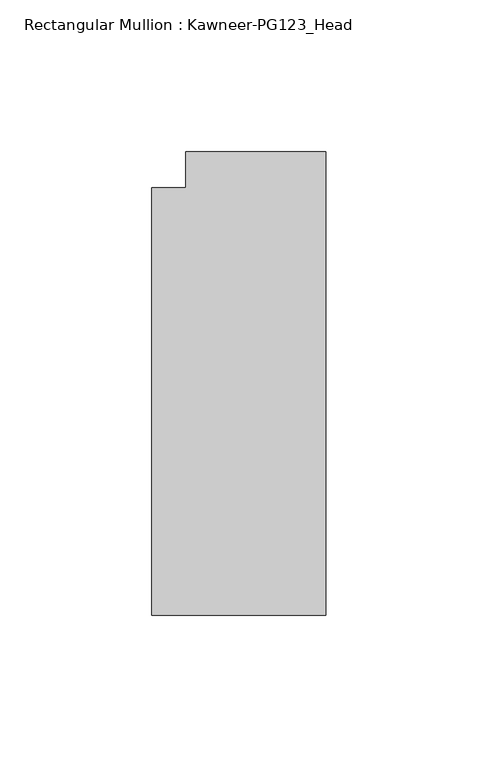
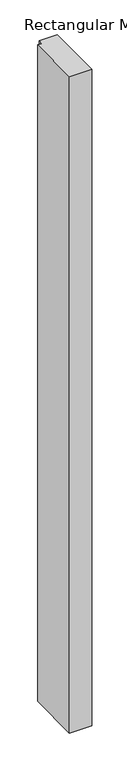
"""IFC4 building model written with IfcOpenShell, lengths in millimetres: member geometry, Rectangular Mullion : Kawneer-PG123_Head."""

import ifcopenshell
import ifcopenshell.guid

model = None  # the IFC model being written
_history = None  # IfcOwnerHistory: only IFC2X3 demands one
_inside = {}  # id of a spatial element -> (the spatial element, [elements in it])
_under = {}  # id of a project, library or spatial element -> (it, [spatial elements below it])
_declared = {}  # id of a project -> (the project, [libraries it declares])
_typed = {}  # id of a type object -> (the type object, [elements of that type])
_made_of = {}  # id of a material, layer set ... -> (it, [elements and type objects made of it])


def new_model(schema):
    """Start an empty IFC model of exactly this schema.

    Asked for "IFC4X3", IfcOpenShell would pick the latest addendum, in which some entities
    have other attributes; the version numbers below select the first issue.
    IFC2X3 requires an IfcOwnerHistory on every rooted entity: one is made here for all.
    """
    global model, _history
    if schema == "IFC4X3":
        model = ifcopenshell.file(schema_version=(4, 3, 0, 0))
    else:
        model = ifcopenshell.file(schema=schema)
    _inside.clear()
    _under.clear()
    _declared.clear()
    _typed.clear()
    _made_of.clear()
    _history = None
    if model.schema == "IFC2X3":
        org = make("IfcOrganization", Name="unknown")
        user = make(
            "IfcPersonAndOrganization",
            ThePerson=make("IfcPerson", FamilyName="unknown"),
            TheOrganization=org,
        )
        app = make(
            "IfcApplication",
            ApplicationDeveloper=org,
            Version="unknown",
            ApplicationFullName="unknown",
            ApplicationIdentifier="unknown",
        )
        _history = make(
            "IfcOwnerHistory",
            OwningUser=user,
            OwningApplication=app,
            ChangeAction="ADDED",
            CreationDate=0,
        )
    return model


def make(cls, **values):
    """One entity of the class cls with the attributes given. An attribute that is None is left unset."""
    return model.create_entity(
        cls, **{name: value for name, value in values.items() if value is not None}
    )


def rooted(cls, **values):
    """An entity with a GlobalId (a new one), such as an element, a storey or a relation."""
    return make(cls, GlobalId=ifcopenshell.guid.new(), OwnerHistory=_history, **values)


def si_unit(unit_type, name, prefix=None):
    """IfcSIUnit, for example si_unit("LENGTHUNIT", "METRE", prefix="MILLI")."""
    return make("IfcSIUnit", UnitType=unit_type, Prefix=prefix, Name=name)


def assignment(units):
    """IfcUnitAssignment: the units of a project."""
    return None if units is None else make("IfcUnitAssignment", Units=units)


def point(xyz):
    """IfcCartesianPoint."""
    return None if xyz is None else make("IfcCartesianPoint", Coordinates=xyz)


def direction(xyz):
    """IfcDirection."""
    return None if xyz is None else make("IfcDirection", DirectionRatios=xyz)


def frame(location, z_axis=None, x_axis=None):
    """IfcAxis2Placement3D, a coordinate frame: its origin and axes. An axis left out is left unset."""
    return make(
        "IfcAxis2Placement3D",
        Location=point(location),
        Axis=direction(z_axis),
        RefDirection=direction(x_axis),
    )


def origin():
    """The frame at (0, 0, 0) with its axes left unset."""
    return frame((0.0, 0.0, 0.0))


def place(relative_to, where):
    """IfcLocalPlacement: puts the frame where relative to a parent placement (None: the world)."""
    return make(
        "IfcLocalPlacement", PlacementRelTo=relative_to, RelativePlacement=where
    )


def context(
    kind, dimensions, precision=None, world=None, true_north=None, identifier=None
):
    """IfcGeometricRepresentationContext, for example the 3D "Model" context."""
    return make(
        "IfcGeometricRepresentationContext",
        ContextIdentifier=identifier,
        ContextType=kind,
        CoordinateSpaceDimension=dimensions,
        Precision=precision,
        WorldCoordinateSystem=world,
        TrueNorth=true_north,
    )


def project(units=None, contexts=None):
    """IfcProject with its units and contexts."""
    return rooted(
        "IfcProject",
        Name="project",
        RepresentationContexts=contexts,
        UnitsInContext=assignment(units),
    )


def spatial(cls, under=None, at=None, **own):
    """A site, building, storey or space (cls), placed at a placement, below another one or the project."""
    s = rooted(cls, ObjectPlacement=at, **own)
    if under is not None:
        _under.setdefault(under.id(), (under, []))[1].append(s)
    return s


def polyline(points):
    """IfcPolyline through the points."""
    return make("IfcPolyline", Points=[point(p) for p in points])


def outline(outer, holes=None, kind="AREA"):
    """IfcArbitraryClosedProfileDef: a profile drawn as a closed curve; with holes, ...WithVoids."""
    if holes is None:
        return make("IfcArbitraryClosedProfileDef", ProfileType=kind, OuterCurve=outer)
    return make(
        "IfcArbitraryProfileDefWithVoids",
        ProfileType=kind,
        OuterCurve=outer,
        InnerCurves=holes,
    )


def extrude(swept, where, along, depth):
    """IfcExtrudedAreaSolid: the profile swept, set in the frame where, extruded along a direction by depth."""
    return make(
        "IfcExtrudedAreaSolid",
        SweptArea=swept,
        Position=where,
        ExtrudedDirection=direction(along),
        Depth=depth,
    )


def shape(context_of_items, identifier, shape_type, items):
    """IfcShapeRepresentation: the items that make up one representation, for example the "Body"."""
    return make(
        "IfcShapeRepresentation",
        ContextOfItems=context_of_items,
        RepresentationIdentifier=identifier,
        RepresentationType=shape_type,
        Items=items,
    )


def source(mapping_origin, context_of_items, identifier, shape_type, items):
    """IfcRepresentationMap: a shape defined once, which mapped items show again and again."""
    return make(
        "IfcRepresentationMap",
        MappingOrigin=mapping_origin,
        MappedRepresentation=shape(context_of_items, identifier, shape_type, items),
    )


def transform(
    local_origin,
    x_axis=None,
    y_axis=None,
    z_axis=None,
    scale=None,
    scale2=None,
    scale3=None,
    uniform=True,
):
    """IfcCartesianTransformationOperator3D, or its non-uniform kind. x_axis, y_axis, z_axis: its Axis1, 2, 3."""
    if uniform:
        return make(
            "IfcCartesianTransformationOperator3D",
            Axis1=direction(x_axis),
            Axis2=direction(y_axis),
            LocalOrigin=point(local_origin),
            Scale=scale,
            Axis3=direction(z_axis),
        )
    return make(
        "IfcCartesianTransformationOperator3DnonUniform",
        Axis1=direction(x_axis),
        Axis2=direction(y_axis),
        LocalOrigin=point(local_origin),
        Scale=scale,
        Axis3=direction(z_axis),
        Scale2=scale2,
        Scale3=scale3,
    )


def mapped(mapping_source, mapping_target):
    """IfcMappedItem: shows the shape of a source again, moved by a transform."""
    return make(
        "IfcMappedItem", MappingSource=mapping_source, MappingTarget=mapping_target
    )


def made_of(thing, what):
    """Note that an element or type object is made of a material, layer set ...; save() writes the relation."""
    if what is not None:
        _made_of.setdefault(what.id(), (what, []))[1].append(thing)
    return thing


def element(
    cls,
    number,
    at=None,
    inside=None,
    cuts=None,
    type_object=None,
    material=None,
    context=None,
    identifier="Body",
    shape_type=None,
    held_by="IfcProductDefinitionShape",
    body=None,
    shapes=None,
    **own,
):
    """One element of the class cls, such as IfcWall. Its Tag is "e" and its number.

    at: its placement. inside: the storey or other place that contains it. cuts: it is an
    opening in that element (IfcRelVoidsElement). A single representation is given by context,
    identifier, shape_type and body (its items); several are given by shapes. held_by: the class
    of the entity that holds the representations. save() writes the other relations.
    """
    e = rooted(cls, Tag="e%d" % number, ObjectPlacement=at, **own)
    if body is not None:
        shapes = [shape(context, identifier, shape_type, body)]
    if shapes is not None:
        e.Representation = make(held_by, Representations=shapes)
    if inside is not None:
        _inside.setdefault(inside.id(), (inside, []))[1].append(e)
    if cuts is not None:
        rooted(
            "IfcRelVoidsElement", RelatingBuildingElement=cuts, RelatedOpeningElement=e
        )
    if type_object is not None:
        _typed.setdefault(type_object.id(), (type_object, []))[1].append(e)
    return made_of(e, material)


def aggregate(whole, parts):
    """IfcRelAggregates: a whole, such as a stair, and the parts it consists of."""
    return rooted("IfcRelAggregates", RelatingObject=whole, RelatedObjects=parts)


def save(model, path):
    """Write the relations noted so far, then the file.

    IfcRelAggregates (storeys below a building ...), IfcRelContainedInSpatialStructure (elements
    in a storey), IfcRelDefinesByType, IfcRelAssociatesMaterial and IfcRelDeclares: one each for
    every whole, place, type object, material and project.
    """
    for whole, parts in _under.values():
        aggregate(whole, parts)
    for where, things in _inside.values():
        rooted(
            "IfcRelContainedInSpatialStructure",
            RelatedElements=things,
            RelatingStructure=where,
        )
    for kind, things in _typed.values():
        rooted("IfcRelDefinesByType", RelatedObjects=things, RelatingType=kind)
    for what, things in _made_of.values():
        rooted("IfcRelAssociatesMaterial", RelatedObjects=things, RelatingMaterial=what)
    for by, libraries in _declared.values():
        rooted("IfcRelDeclares", RelatingContext=by, RelatedDefinitions=libraries)
    model.write(path)


def rectangular_mullion_kawneer_pg123_head_d7d38b5f(model_context):
    return source(origin(), model_context, "Body", "SweptSolid", [
        extrude(outline(polyline([(0.0, 76.2), (0.0, -76.2), (-57.15, -76.2), (-57.15, 64.4779044), (-46.0319821, 64.4779044), (-46.0319821, 76.2), (0.0, 76.2)])), frame((0.0, 0.0, -1772.85), z_axis=(0.0, 0.0, 1.0), x_axis=(1.0, 0.0, 0.0)), (0.0, 0.0, 1.0), 1772.85),
    ])


if __name__ == "__main__":
    model = new_model("IFC4")
    model_context = context("Model", 3, world=origin())
    ifc_project = project(units=[si_unit("LENGTHUNIT", "METRE", prefix="MILLI")], contexts=[model_context])
    site = spatial("IfcSite", under=ifc_project)
    building = spatial("IfcBuilding", under=site)
    placement = place(None, origin())
    rectangular_mullion_kawneer_pg123_head_shape = rectangular_mullion_kawneer_pg123_head_d7d38b5f(model_context)
    element("IfcMember", 1, ObjectType="Rectangular Mullion : Kawneer-PG123_Head", at=placement, inside=building, context=model_context, shape_type="MappedRepresentation", body=[
        mapped(rectangular_mullion_kawneer_pg123_head_shape, transform((0.0, 0.0, 0.0), x_axis=(1.0, 0.0, 0.0), y_axis=(0.0, 1.0, 0.0), z_axis=(0.0, 0.0, 1.0))),
    ])
    save(model, "model.ifc")
